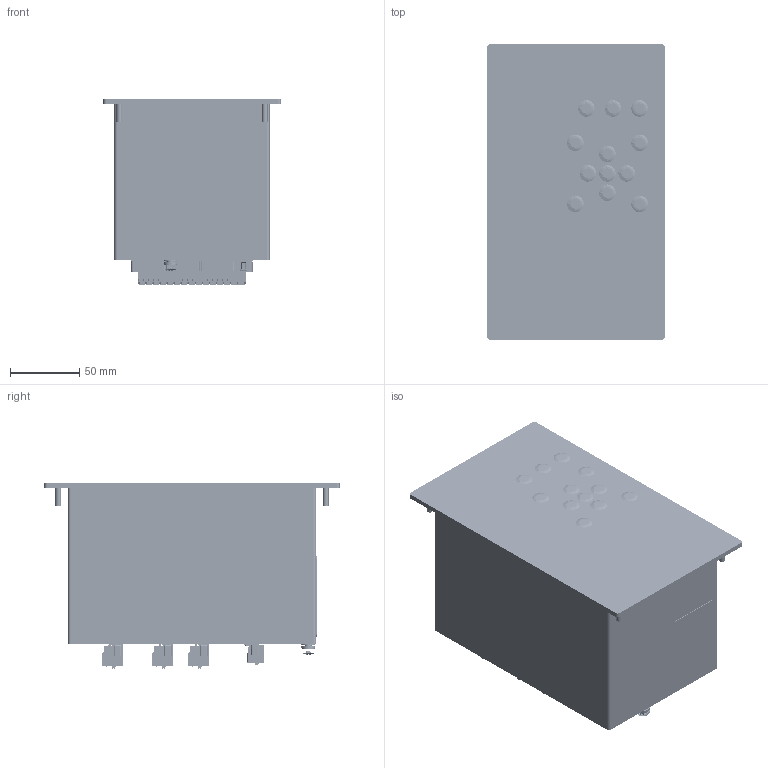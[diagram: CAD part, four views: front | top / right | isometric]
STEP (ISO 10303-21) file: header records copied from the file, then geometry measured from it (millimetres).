
FILE_DESCRIPTION(/* description */ (''),/* implementation_level */ '2;1');
FILE_NAME(/* name */ 'D:\WorkIMT\Project IMT\СКИ\СКИ для сайта\MT.PULSE.01 для сайта.stp',/* time_stamp */ '2026-10-10T09:33:42+03:00',/* author */ ('admin'),/* organization */ (''),/* preprocessor_version */ 'ST-DEVELOPER v17.2',/* originating_system */ 'Autodesk Inventor 2019',/* authorisation */ '');
FILE_SCHEMA (('AUTOMOTIVE_DESIGN { 1 0 10303 214 3 1 1 }'));
Products named in the file (1): MT.PULSE.01 для сайта
Bounding box: 128 x 213 x 134.59 mm (x, y, z)
Volume: 463315.9 mm3; surface area: 310335.2 mm2
Topology: 11 solids, 195 shells, 13750 faces, 38128 edges, 24788 vertices
Faces by surface type: plane 9592, cylinder 3017, cone 527, bspline 506, torus 103, sphere 5
Full cylindrical faces by diameter (mm): 0.457 x3, 1.6 x12, 1.75 x6, 1.8 x12, 2 x6, 2.05 x45, 2.3 x12, 3.1 x12, 3.2 x6, 3.3 x39, 3.35 x6, 3.45 x6, 3.8 x6, 3.85 x6, 3.9 x6, 4 x53, 4.6 x1, 4.8 x6, 5 x1, 5.3 x2, 5.5 x7, 9.3 x6, 10 x2
Entity records: 527886 total; most frequent: CARTESIAN_POINT 161199, ORIENTED_EDGE 76236, DIRECTION 70622, EDGE_CURVE 38118, LINE 26308, VECTOR 26308, VERTEX_POINT 24788, AXIS2_PLACEMENT_3D 22157
